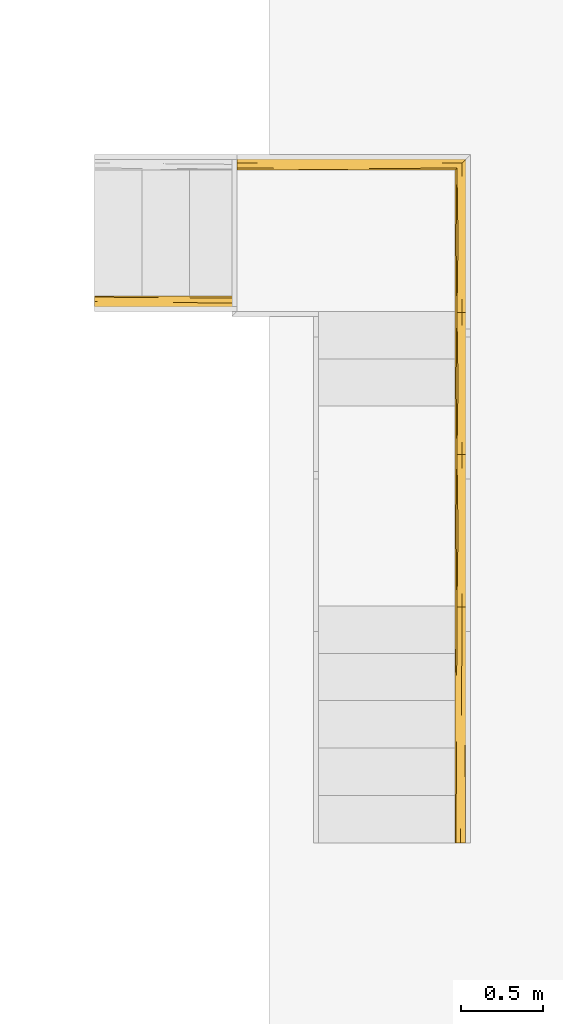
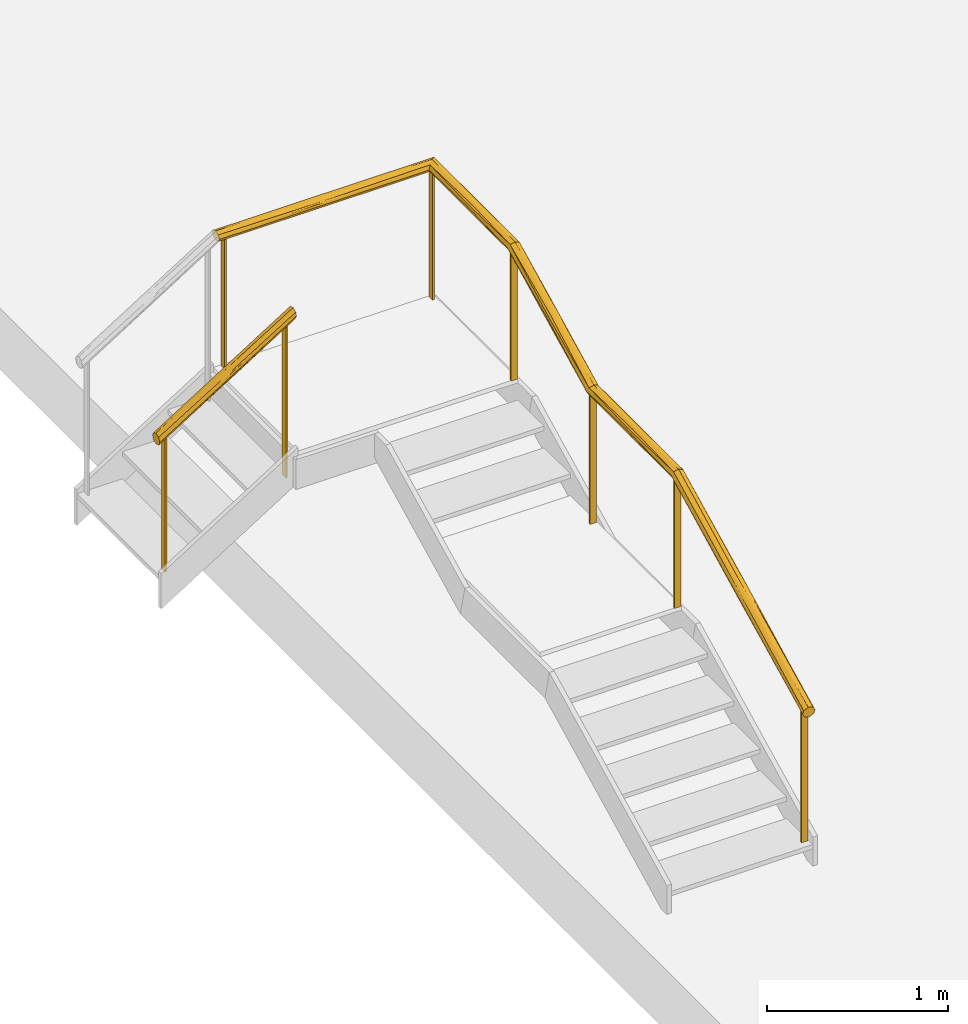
# One storey, part 9 of 15: 2 railings, 2 elements without a shape of their own.
"""IFC2X3 building model written with IfcOpenShell, lengths in centimetres."""

from ifc_helpers import new_model, entity, si_unit, converted_unit, derived_unit, direction, frame, origin, place, context, subcontext, project, spatial, faceted_brep, material, material_list, element, aggregate, save


model = new_model("IFC2X3")

# Units and contexts
model_context = context("Model", 3, precision=0.001, world=origin(), true_north=direction((6.12303176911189e-17, 1.0)))
body_context = subcontext(model_context, "Body", "Model", "MODEL_VIEW")
ifc_project = project(units=[si_unit("LENGTHUNIT", "METRE", prefix="CENTI"), si_unit("AREAUNIT", "SQUARE_METRE"), si_unit("VOLUMEUNIT", "CUBIC_METRE"), converted_unit("PLANEANGLEUNIT", "DEGREE", entity("IfcRatioMeasure", 0.0174532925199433), si_unit("PLANEANGLEUNIT", "RADIAN"), dimensions=[0, 0, 0, 0, 0, 0, 0]), si_unit("MASSUNIT", "GRAM", prefix="KILO"), si_unit("TIMEUNIT", "SECOND"), si_unit("FREQUENCYUNIT", "HERTZ"), si_unit("THERMODYNAMICTEMPERATUREUNIT", "DEGREE_CELSIUS"), derived_unit("THERMALTRANSMITTANCEUNIT", [(si_unit("MASSUNIT", "GRAM", prefix="KILO"), 1), (si_unit("THERMODYNAMICTEMPERATUREUNIT", "KELVIN"), -1), (si_unit("TIMEUNIT", "SECOND"), -3)]), derived_unit("VOLUMETRICFLOWRATEUNIT", [(si_unit("LENGTHUNIT", "METRE"), 3), (si_unit("TIMEUNIT", "SECOND"), -1)]), si_unit("ELECTRICCURRENTUNIT", "AMPERE"), si_unit("ELECTRICVOLTAGEUNIT", "VOLT"), si_unit("POWERUNIT", "WATT"), si_unit("FORCEUNIT", "NEWTON", prefix="KILO"), si_unit("ILLUMINANCEUNIT", "LUX"), si_unit("LUMINOUSFLUXUNIT", "LUMEN"), si_unit("LUMINOUSINTENSITYUNIT", "CANDELA"), derived_unit("USERDEFINED", [(si_unit("MASSUNIT", "GRAM", prefix="KILO"), -1), (si_unit("LENGTHUNIT", "METRE"), -2), (si_unit("TIMEUNIT", "SECOND"), 3), (si_unit("LUMINOUSFLUXUNIT", "LUMEN"), 1)]), derived_unit("LINEARVELOCITYUNIT", [(si_unit("LENGTHUNIT", "METRE"), 1), (si_unit("TIMEUNIT", "SECOND"), -1)]), si_unit("PRESSUREUNIT", "PASCAL"), derived_unit("USERDEFINED", [(si_unit("LENGTHUNIT", "METRE"), -2), (si_unit("MASSUNIT", "GRAM", prefix="KILO"), 1), (si_unit("TIMEUNIT", "SECOND"), -2)])], contexts=[model_context])

# Site, building, storey
site_placement = place(None, frame((8.62739174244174, -249.285249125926, 0.0)))
site = spatial("IfcSite", under=ifc_project, at=site_placement, Name="Default", CompositionType="ELEMENT")
building_placement = place(site_placement, origin())
building = spatial("IfcBuilding", under=site, at=building_placement, CompositionType="ELEMENT")
storey_placement = place(building_placement, frame((0.0, 0.0, 801.0)))
storey = spatial("IfcBuildingStorey", under=building, at=storey_placement, Name="Acrotère E3", CompositionType="ELEMENT", Elevation=801.0)

# Stair, railing
stair_1_placement = place(storey_placement, origin())
stair_1 = element("IfcStair", 1, at=stair_1_placement, inside=storey, Name="Escalier assemblé:Escalier", ShapeType="NOTDEFINED")
ifc_material_1 = material(Name="Peinture - Grise")
ifc_material_2 = material(Name="Pin (1)")
ifc_material_list_1 = material_list([ifc_material_1, ifc_material_2])
railing_1_placement = place(stair_1_placement, frame((2946.90482781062, 4178.85578472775, -0.666666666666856)))
railing_1 = element("IfcRailing", 2, at=railing_1_placement, material=ifc_material_list_1, Name="Garde-corps:Type Bateau", ObjectType="Garde-corps:Type Bateau", PredefinedType="NOTDEFINED", context=body_context, shape_type="Brep", body=[
    faceted_brep([(82.6000000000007, 6.15952722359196, 137.963695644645), (81.4000000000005, 6.15952722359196, 137.963695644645), (81.4000000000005, 2.159527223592, 137.963695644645), (82.6000000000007, 2.159527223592, 137.963695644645), (82.6000000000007, 6.15952722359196, 36.4444444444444), (82.6000000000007, 2.159527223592, 36.4444444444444), (81.4000000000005, 2.159527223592, 36.4444444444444), (81.4000000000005, 6.15952722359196, 36.4444444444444)], [[[0, 1, 2, 3]], [[4, 5, 6, 7]], [[1, 0, 4, 7]], [[2, 1, 7, 6]], [[3, 2, 6, 5]], [[0, 3, 5, 4]]]),
    faceted_brep([(5.60000000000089, 6.15952722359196, 89.5805538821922), (4.40000000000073, 6.15952722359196, 89.5805538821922), (4.40000000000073, 2.159527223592, 89.5805538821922), (5.60000000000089, 2.159527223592, 89.5805538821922), (5.60000000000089, 6.15952722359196, 0.0), (5.60000000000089, 2.159527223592, 0.0), (4.40000000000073, 2.159527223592, 0.0), (4.40000000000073, 6.15952722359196, 0.0)], [[[0, 1, 2, 3]], [[4, 5, 6, 7]], [[1, 0, 4, 7]], [[2, 1, 7, 6]], [[3, 2, 6, 5]], [[0, 3, 5, 4]]]),
    faceted_brep([(0.0, 1.48300479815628, 92.633024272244), (0.0, 3.03032293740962, 93.0783492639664), (0.0, 4.5776410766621, 93.5236742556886), (0.0, 5.98661813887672, 92.8031232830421), (0.0, 7.39559520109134, 92.0825723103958), (0.0, 7.77756121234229, 91.0412861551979), (0.0, 8.1595272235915, 90.0), (0.0, 7.49778843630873, 88.683487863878), (0.0, 6.83604964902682, 87.3669757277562), (0.0, 5.28873150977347, 86.9216507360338), (0.0, 4.5150724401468, 86.6989882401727), (0.0, 3.741413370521, 86.4763257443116), (0.0, 2.33243630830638, 87.1968767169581), (0.0, 0.923459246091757, 87.9174276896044), (0.0, 0.541493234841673, 88.9587138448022), (0.0, 0.15952722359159, 90.0), (0.0, 0.821266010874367, 91.316512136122), (87.0, 0.821266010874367, 143.350154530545), (87.0, 1.48300479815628, 142.033642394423), (87.0, 3.03032293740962, 141.588317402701), (87.0, 4.5776410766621, 141.142992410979), (87.0, 5.98661813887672, 141.863543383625), (87.0, 7.39559520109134, 142.584094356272), (87.0, 7.77756121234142, 143.625380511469), (87.0, 8.1595272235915, 144.666666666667), (87.0, 7.49778843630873, 145.983178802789), (87.0, 6.83604964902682, 147.299690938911), (87.0, 5.28873150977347, 147.745015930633), (87.0, 3.741413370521, 148.190340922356), (87.0, 2.33243630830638, 147.469789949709), (87.0, 0.923459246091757, 146.749238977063), (87.0, 0.541493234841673, 145.707952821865), (87.0, 0.15952722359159, 144.666666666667), (36.8666003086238, 8.02411869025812, 112.25114367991), (46.6073203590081, 0.7842993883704, 117.384441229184), (45.3720805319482, 3.42748462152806, 115.026415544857), (38.2869607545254, 6.05579838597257, 110.938063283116), (43.5242527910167, 4.98840300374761, 113.882393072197), (46.5504868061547, 2.3819247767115, 116.076120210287), (36.1371269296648, 1.48583532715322, 110.071574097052), (45.8486968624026, 0.336276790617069, 117.767559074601), (26.1494504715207, 8.1595272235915, 106.431072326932), (60.8505463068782, 8.1595272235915, 128.235592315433), (43.3404633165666, 7.61809586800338, 115.453084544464), (48.2161761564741, 6.94974299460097, 117.758020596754), (60.8505463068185, 0.15952722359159, 128.235592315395), (26.1494504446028, 0.15952722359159, 106.431072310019), (46.3428116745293, 0.560433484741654, 120.665671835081), (42.8649360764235, 1.1628965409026, 119.28119858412), (39.493795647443, 1.99016423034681, 117.79277712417), (49.7508696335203, 2.98258791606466, 124.6473253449), (42.7976339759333, 4.12025700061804, 120.434912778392), (39.7696267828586, 8.06398392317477, 115.759107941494), (39.6862148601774, 7.72721402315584, 116.539078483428), (39.5561967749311, 5.20472994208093, 118.275222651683), (42.7017685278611, 7.10232025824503, 119.231526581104), (49.6878665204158, 6.21182380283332, 124.262680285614)], [[[0, 1, 2, 3, 4, 5, 6, 7, 8, 9, 10, 11, 12, 13, 14, 15, 16]], [[17, 18, 19, 20, 21, 22, 23, 24, 25, 26, 27, 28, 29, 30, 31, 32]], [[7, 6, 33]], [[14, 13, 34]], [[11, 35, 12]], [[9, 36, 37]], [[37, 36, 21]], [[12, 38, 39]], [[13, 39, 34]], [[17, 34, 18]], [[35, 38, 12]], [[10, 9, 37]], [[14, 34, 40]], [[33, 6, 41, 42, 24]], [[8, 43, 44]], [[39, 13, 12]], [[36, 8, 44]], [[17, 40, 34]], [[19, 18, 38]], [[18, 34, 39]], [[40, 17, 32]], [[40, 32, 45, 46, 15]], [[14, 40, 15]], [[39, 38, 18]], [[35, 19, 38]], [[35, 20, 19]], [[11, 10, 35]], [[20, 35, 37]], [[10, 37, 35]], [[20, 37, 21]], [[22, 21, 44]], [[36, 9, 8]], [[36, 44, 21]], [[22, 44, 43]], [[33, 23, 43]], [[7, 43, 8]], [[23, 22, 43]], [[43, 7, 33]], [[23, 33, 24]], [[30, 47, 31]], [[48, 49, 0]], [[49, 50, 1]], [[1, 50, 51]], [[52, 53, 25]], [[2, 51, 54]], [[55, 26, 25]], [[55, 53, 4]], [[52, 25, 24]], [[16, 15, 46]], [[55, 25, 53]], [[5, 4, 53]], [[5, 53, 52]], [[56, 55, 3]], [[56, 3, 54]], [[48, 29, 49]], [[26, 55, 56]], [[52, 24, 42, 41, 6]], [[54, 51, 27]], [[55, 4, 3]], [[56, 27, 26]], [[27, 56, 54]], [[28, 27, 51]], [[2, 54, 3]], [[28, 51, 50]], [[51, 2, 1]], [[50, 29, 28]], [[29, 50, 49]], [[30, 29, 48]], [[0, 49, 1]], [[31, 46, 45, 32]], [[48, 0, 16]], [[16, 47, 48]], [[5, 52, 6]], [[47, 16, 46]], [[48, 47, 30]], [[31, 47, 46]]]),
])
aggregate(stair_1, [railing_1])

stair_2_placement = place(building_placement, frame((0.0, 0.0, 801.0)))
stair_2 = element("IfcStair", 3, at=stair_2_placement, inside=storey, Name="Escalier assemblé:Escalier", ShapeType="NOTDEFINED")
ifc_material_list_2 = material_list([ifc_material_1, ifc_material_2])
railing_2_placement = place(stair_2_placement, frame((3033.90482780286, 3852.18519336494, -62.4444444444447)))
railing_2 = element("IfcRailing", 4, at=railing_2_placement, material=ifc_material_list_2, Name="Garde-corps:Type Bateau", ObjectType="Garde-corps:Type Bateau", PredefinedType="NOTDEFINED", context=body_context, shape_type="Brep", body=[
    faceted_brep([(135.460000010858, 144.399999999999, 159.403930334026), (139.460000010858, 144.399999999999, 159.403930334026), (139.460000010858, 145.599999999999, 159.403930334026), (135.460000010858, 145.599999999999, 159.403930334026), (135.460000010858, 144.399999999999, 72.7777777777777), (135.460000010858, 145.599999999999, 72.7777777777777), (139.460000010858, 145.599999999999, 72.7777777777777), (139.460000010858, 144.399999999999, 72.7777777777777)], [[[0, 1, 2, 3]], [[4, 5, 6, 7]], [[3, 5, 4, 0]], [[2, 6, 5, 3]], [[1, 7, 6, 2]], [[0, 4, 7, 1]]]),
    faceted_brep([(135.460000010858, 237.690118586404, 159.403930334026), (139.460000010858, 237.690118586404, 159.403930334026), (139.460000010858, 238.890118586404, 159.403930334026), (135.460000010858, 238.890118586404, 159.403930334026), (135.460000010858, 237.690118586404, 72.7777777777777), (135.460000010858, 238.890118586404, 72.7777777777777), (139.460000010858, 238.890118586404, 72.7777777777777), (139.460000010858, 237.690118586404, 72.7777777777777)], [[[0, 1, 2, 3]], [[4, 5, 6, 7]], [[3, 5, 4, 0]], [[2, 6, 5, 3]], [[1, 7, 6, 2]], [[0, 4, 7, 1]]]),
    faceted_brep([(135.460000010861, 324.690118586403, 203.429097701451), (139.460000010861, 324.690118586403, 203.429097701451), (139.460000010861, 325.890118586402, 203.429097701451), (135.460000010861, 325.890118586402, 203.429097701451), (135.460000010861, 324.690118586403, 116.444444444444), (135.460000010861, 325.890118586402, 116.444444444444), (139.460000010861, 325.890118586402, 116.444444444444), (139.460000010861, 324.690118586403, 116.444444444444)], [[[0, 1, 2, 3]], [[4, 5, 6, 7]], [[3, 5, 4, 0]], [[2, 6, 5, 3]], [[1, 7, 6, 2]], [[0, 4, 7, 1]]]),
    faceted_brep([(138.060000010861, 413.750118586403, 203.429097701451), (138.060000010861, 417.750118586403, 203.429097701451), (136.860000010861, 417.750118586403, 203.429097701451), (136.860000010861, 413.750118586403, 203.429097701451), (138.060000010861, 413.750118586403, 116.444444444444), (136.860000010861, 413.750118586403, 116.444444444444), (136.860000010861, 417.750118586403, 116.444444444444), (138.060000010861, 417.750118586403, 116.444444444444)], [[[0, 1, 2, 3]], [[4, 5, 6, 7]], [[3, 5, 4, 0]], [[2, 6, 5, 3]], [[1, 7, 6, 2]], [[0, 4, 7, 1]]]),
    faceted_brep([(135.460000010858, 4.39999999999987, 89.1357311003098), (139.460000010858, 4.39999999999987, 89.1357311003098), (139.460000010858, 5.60000000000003, 89.1357311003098), (135.460000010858, 5.60000000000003, 89.1357311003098), (135.460000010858, 4.39999999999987, 0.0), (135.460000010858, 5.60000000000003, 0.0), (139.460000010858, 5.60000000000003, 0.0), (139.460000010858, 4.39999999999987, 0.0)], [[[0, 1, 2, 3]], [[4, 5, 6, 7]], [[3, 5, 4, 0]], [[2, 6, 5, 3]], [[1, 7, 6, 2]], [[0, 4, 7, 1]]]),
    faceted_brep([(5.60000000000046, 413.750118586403, 203.429097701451), (5.60000000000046, 417.750118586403, 203.429097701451), (4.4000000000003, 417.750118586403, 203.429097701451), (4.4000000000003, 413.750118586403, 203.429097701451), (5.60000000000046, 413.750118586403, 116.444444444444), (4.4000000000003, 413.750118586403, 116.444444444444), (4.4000000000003, 417.750118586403, 116.444444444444), (5.60000000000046, 417.750118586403, 116.444444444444)], [[[0, 1, 2, 3]], [[4, 5, 6, 7]], [[3, 5, 4, 0]], [[2, 6, 5, 3]], [[1, 7, 6, 2]], [[0, 4, 7, 1]]]),
    faceted_brep([(0.0, 419.088379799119, 205.329727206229), (0.0, 418.426641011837, 204.215009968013), (0.0, 416.879322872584, 203.837944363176), (0.0, 415.332004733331, 203.46087875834), (0.0, 413.923027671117, 204.070983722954), (0.0, 412.514050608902, 204.681088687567), (0.0, 412.114163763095, 205.604132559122), (0.0, 411.750118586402, 206.444444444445), (0.0, 412.237108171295, 207.264791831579), (0.0, 412.655352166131, 207.969335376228), (0.0, 413.073596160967, 208.673878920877), (0.0, 414.62091430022, 209.050944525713), (0.0, 416.168232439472, 209.42801013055), (0.0, 417.577209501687, 208.817905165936), (0.0, 418.986186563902, 208.207800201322), (0.0, 419.368152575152, 207.326122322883), (0.0, 419.750118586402, 206.444444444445), (137.041886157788, 415.332004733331, 203.46087875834), (135.632909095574, 413.923027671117, 204.070983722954), (68.5209428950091, 414.525653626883, 203.588462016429), (67.8164544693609, 413.576552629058, 203.926006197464), (67.1119661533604, 412.805040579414, 204.414379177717), (134.223932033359, 412.514050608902, 204.681088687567), (133.841966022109, 412.132084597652, 205.562766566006), (67.111965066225, 412.188069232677, 205.079567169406), (72.4657254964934, 411.860348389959, 205.745016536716), (133.460000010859, 411.750118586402, 206.444444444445), (84.3241081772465, 411.750118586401, 206.444444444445), (81.9050178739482, 411.750118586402, 206.444444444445), (70.0682611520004, 417.76195693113, 203.851514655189), (68.5209431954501, 416.168232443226, 203.460878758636), (70.0682612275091, 418.589466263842, 204.331346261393), (75.151701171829, 419.381608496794, 205.186705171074), (140.56175576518, 418.851874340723, 204.931327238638), (57.1358878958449, 419.750118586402, 206.444444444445), (59.5549857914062, 419.750118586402, 206.444444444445), (141.460000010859, 419.750118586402, 206.444444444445), (140.986989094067, 419.277107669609, 205.647644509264), (138.589204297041, 416.879322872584, 203.837944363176), (140.136522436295, 418.426641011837, 204.215009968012), (140.889862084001, 419.179980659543, 205.484031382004), (140.513192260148, 418.80331083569, 204.849520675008), (70.3480330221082, 419.314144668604, 207.806415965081), (140.696067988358, 418.986186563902, 208.207800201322), (141.004776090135, 419.294894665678, 207.495220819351), (141.078033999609, 419.368152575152, 207.326122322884), (78.6795816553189, 419.644763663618, 207.128442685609), (69.6435457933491, 416.99796987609, 209.294727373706), (70.3480341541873, 418.648638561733, 208.511858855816), (136.330795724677, 414.62091430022, 209.050944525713), (137.878113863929, 416.168232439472, 209.42801013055), (68.9390570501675, 415.345393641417, 209.429048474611), (67.3917388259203, 412.704668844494, 208.389423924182), (67.3917387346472, 413.591695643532, 208.970197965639), (62.3048909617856, 412.132197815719, 207.723991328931), (139.287090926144, 417.577209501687, 208.817905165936), (134.121738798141, 412.411857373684, 207.559161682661), (134.783477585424, 413.073596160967, 208.673878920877), (66.6385448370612, 417.888205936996, 208.979908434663), (72.3692414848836, 414.431841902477, 209.276838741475), (133.898837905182, 369.11093402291, 205.078265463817), (134.22393203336, 325.707816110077, 204.681088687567), (133.908536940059, 325.535366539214, 205.40910340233), (133.84196602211, 325.49896734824, 205.562766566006), (134.484934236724, 369.110933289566, 204.439125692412), (133.566776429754, 370.699488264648, 205.755909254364), (136.222202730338, 369.887681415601, 203.591696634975), (135.632909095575, 325.852335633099, 204.070983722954), (137.041886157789, 325.996855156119, 203.46087875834), (141.314491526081, 369.901287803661, 205.642647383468), (140.476853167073, 372.122430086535, 204.474555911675), (141.46000001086, 325.290118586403, 206.444444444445), (140.877197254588, 325.522671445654, 205.462697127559), (140.798261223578, 325.554168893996, 205.329727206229), (137.897801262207, 371.393430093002, 203.462467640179), (138.589204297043, 325.907537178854, 203.837944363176), (139.477436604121, 372.122430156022, 203.853962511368), (140.136522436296, 325.81821920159, 204.215009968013), (141.46000001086, 353.826271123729, 206.444444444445), (141.46000001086, 359.74326813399, 206.444444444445), (133.46000001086, 325.290118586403, 206.444444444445), (133.46000001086, 358.252044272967, 206.444444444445), (133.46000001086, 359.743266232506, 206.444444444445), (140.506859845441, 325.670445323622, 204.838853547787), (135.238059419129, 369.88768172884, 203.949865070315), (138.694296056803, 370.375807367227, 209.298045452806), (140.194434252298, 371.929303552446, 208.633990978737), (134.051500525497, 325.054095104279, 207.440843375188), (133.600085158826, 370.994779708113, 207.231429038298), (140.69606798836, 324.87242106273, 208.207800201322), (140.970961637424, 371.929304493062, 207.881853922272), (141.344365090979, 378.056695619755, 207.160569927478), (137.061423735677, 370.375807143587, 209.429513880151), (135.460964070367, 368.917807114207, 209.042937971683), (136.330795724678, 324.672699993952, 209.050944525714), (141.07803399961, 325.081269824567, 207.326122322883), (134.228744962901, 368.917807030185, 208.212757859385), (137.878113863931, 324.583382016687, 209.42801013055), (139.287090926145, 324.727901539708, 208.817905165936), (134.783477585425, 324.762017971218, 208.673878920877), (134.121738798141, 325.026068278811, 207.559161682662), (133.945294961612, 282.059290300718, 183.143674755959), (134.717318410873, 282.396391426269, 182.472043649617), (141.312553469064, 279.926362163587, 182.772694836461), (134.223932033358, 238.707816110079, 161.014422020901), (133.574121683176, 287.13636810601, 186.498394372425), (133.460000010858, 269.548788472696, 178.466995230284), (141.460000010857, 294.031450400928, 190.755227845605), (141.460000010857, 269.548788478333, 178.466995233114), (141.460000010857, 238.290118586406, 162.777777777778), (136.225706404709, 282.438555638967, 181.743699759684), (133.841966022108, 238.498967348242, 161.89609989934), (133.460000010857, 238.290118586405, 162.777777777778), (138.58920429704, 238.907537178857, 160.17127769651), (139.459000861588, 282.403952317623, 182.01175321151), (140.136522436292, 238.818219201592, 160.548343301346), (135.632909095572, 238.8523356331, 160.404317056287), (137.876966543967, 282.496895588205, 181.627464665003), (140.798261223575, 238.554168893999, 161.663060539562), (140.755568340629, 285.771206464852, 184.706896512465), (137.041886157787, 238.996855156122, 159.794212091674), (141.022393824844, 281.551399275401, 186.017878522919), (140.696067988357, 237.872421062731, 164.541133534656), (141.001966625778, 238.039678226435, 163.83503913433), (141.078033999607, 238.081269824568, 163.659455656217), (140.356109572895, 281.23517349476, 186.647914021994), (141.358004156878, 286.043083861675, 187.498922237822), (138.697842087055, 281.012906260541, 187.412920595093), (133.607446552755, 283.653874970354, 186.449527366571), (134.225934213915, 281.470166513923, 186.425837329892), (134.04280276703, 238.057565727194, 163.759525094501), (139.287090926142, 237.72790153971, 165.151238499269), (137.878113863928, 237.583382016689, 165.761343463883), (134.783477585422, 237.762017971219, 165.00721225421), (136.330795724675, 237.672699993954, 165.384277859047), (135.459001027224, 281.09684579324, 187.169629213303), (137.043033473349, 281.083341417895, 187.594757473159), (139.592003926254, 283.17149637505, 188.144579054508), (134.413140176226, 237.909791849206, 164.383368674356), (134.055141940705, 238.052642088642, 163.780310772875), (133.897675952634, 192.062757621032, 161.413303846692), (134.223932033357, 145.417697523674, 161.014422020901), (133.841966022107, 145.208848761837, 161.896099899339), (134.563719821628, 192.062756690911, 160.708598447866), (133.562690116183, 196.607156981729, 162.102371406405), (136.222082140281, 192.207276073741, 159.925059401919), (141.310344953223, 193.737648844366, 161.964851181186), (140.693980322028, 192.17315986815, 161.012268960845), (140.86485808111, 145.237476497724, 161.77524478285), (135.632909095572, 145.562217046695, 160.404317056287), (137.041886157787, 145.706736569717, 159.794212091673), (140.136522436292, 145.528100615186, 160.548343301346), (138.58920429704, 145.617418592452, 160.171277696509), (139.461041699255, 192.173159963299, 160.180152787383), (141.460000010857, 145.0, 162.777777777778), (141.460000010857, 179.239132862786, 162.777777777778), (137.876917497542, 192.351795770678, 159.794117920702), (133.460000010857, 179.239134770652, 162.777777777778), (133.460000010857, 204.050985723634, 162.777777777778), (133.460000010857, 145.0, 162.777777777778), (135.327855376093, 194.354716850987, 160.239500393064), (140.798261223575, 145.264050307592, 161.663060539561), (140.967294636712, 191.22736244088, 164.220214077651), (140.174997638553, 191.227361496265, 164.980887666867), (133.60965506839, 189.552469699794, 163.5907043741), (140.696067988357, 144.582302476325, 164.541133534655), (141.343360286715, 197.266644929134, 163.496962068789), (138.694217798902, 190.938322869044, 165.631397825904), (141.078033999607, 144.791151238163, 163.659455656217), (136.330795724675, 144.382581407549, 165.384277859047), (135.461041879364, 191.027640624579, 165.376304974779), (134.783477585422, 144.471899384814, 165.00721225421), (139.287090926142, 144.437782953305, 165.151238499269), (137.043082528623, 190.938322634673, 165.761437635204), (134.12173879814, 144.735949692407, 163.892495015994), (134.173208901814, 194.508089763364, 164.487548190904), (137.878113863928, 144.293263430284, 165.761343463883), (133.912751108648, 144.819341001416, 163.540449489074), (137.041886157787, 0.0, 93.3382878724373), (135.632909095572, 0.0, 92.6556462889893), (134.223932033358, 0.0, 91.9730047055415), (133.841966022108, 0.0, 90.9865023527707), (133.460000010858, 0.0, 90.0), (134.12173879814, 0.0, 88.7527517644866), (134.783477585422, 0.0, 87.5055035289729), (136.330795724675, 0.0, 87.083607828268), (137.104454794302, 0.0, 86.8726599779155), (137.878113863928, 0.0, 86.6617121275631), (139.287090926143, 0.0, 87.344353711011), (140.696067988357, 0.0, 88.026995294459), (141.078033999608, 0.0, 89.0134976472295), (141.460000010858, 0.0, 90.0), (140.798261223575, 0.0, 91.2472482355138), (140.136522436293, 0.0, 92.4944964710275), (138.58920429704, 0.0, 92.9163921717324), (133.732049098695, 72.8994996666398, 125.372643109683), (135.950669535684, 76.5910401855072, 125.333703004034), (134.985819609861, 77.2526442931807, 126.136809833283), (134.226057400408, 60.6479206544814, 118.46468687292), (133.460000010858, 64.2904624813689, 122.268393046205), (139.615085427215, 79.7017189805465, 127.175706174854), (138.603036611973, 63.5990816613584, 118.704670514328), (137.461469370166, 72.903026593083, 123.234498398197), (140.453585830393, 73.6709467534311, 124.75028451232), (141.06106408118, 67.9230066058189, 122.63032793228), (141.460000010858, 80.7095340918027, 130.509383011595), (133.460000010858, 80.7095340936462, 130.50938301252), (141.460000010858, 64.2904624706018, 122.2683930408), (141.08788791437, 76.1935664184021, 129.656549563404), (140.506610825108, 69.0814872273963, 126.848160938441), (139.676637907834, 67.4220698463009, 126.63432847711), (138.69519161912, 85.0388166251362, 135.874945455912), (137.548535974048, 69.5913943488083, 128.284867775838), (133.894065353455, 66.2616694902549, 124.77852444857), (133.566526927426, 63.2706312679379, 122.526031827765), (136.449161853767, 66.8401118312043, 126.795827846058), (134.52656933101, 70.5507060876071, 127.692520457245), (135.436276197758, 83.363661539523, 134.736912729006)], [[[0, 1, 2, 3, 4, 5, 6, 7, 8, 9, 10, 11, 12, 13, 14, 15, 16]], [[17, 18, 19]], [[4, 20, 21]], [[22, 23, 24]], [[25, 26, 27, 28, 7]], [[24, 23, 25]], [[29, 30, 2]], [[21, 24, 5]], [[20, 4, 19]], [[31, 32, 33]], [[30, 19, 3]], [[29, 1, 31]], [[0, 16, 34, 35]], [[35, 36, 37]], [[0, 35, 32]], [[2, 30, 3]], [[26, 25, 23]], [[38, 29, 39]], [[22, 24, 21]], [[5, 24, 6]], [[22, 21, 18]], [[21, 5, 4]], [[25, 6, 24]], [[6, 25, 7]], [[17, 19, 30]], [[3, 19, 4]], [[39, 29, 31]], [[1, 29, 2]], [[32, 37, 40, 33]], [[31, 1, 0]], [[31, 33, 41, 39]], [[37, 32, 35]], [[0, 32, 31]], [[30, 38, 17]], [[38, 30, 29]], [[20, 18, 21]], [[18, 20, 19]], [[42, 43, 44, 45]], [[34, 16, 15]], [[42, 45, 46]], [[12, 47, 13]], [[13, 48, 14]], [[49, 50, 51]], [[10, 52, 53]], [[15, 46, 34]], [[15, 14, 42]], [[54, 8, 27]], [[12, 11, 51]], [[52, 10, 9]], [[55, 47, 50]], [[14, 48, 42]], [[26, 56, 27]], [[8, 7, 28, 27]], [[57, 53, 52]], [[57, 49, 53]], [[43, 42, 48]], [[45, 36, 46]], [[48, 55, 43]], [[58, 47, 55]], [[42, 46, 15]], [[46, 36, 35, 34]], [[9, 8, 54]], [[52, 56, 57]], [[56, 52, 54]], [[53, 11, 10]], [[59, 51, 11]], [[9, 54, 52]], [[56, 54, 27]], [[59, 49, 51]], [[12, 51, 47]], [[51, 50, 47]], [[13, 47, 58]], [[59, 53, 49]], [[53, 59, 11]], [[58, 48, 13]], [[48, 58, 55]], [[60, 61, 62, 63]], [[22, 64, 60]], [[65, 60, 63]], [[17, 66, 18]], [[18, 64, 22]], [[67, 66, 68]], [[69, 70, 41]], [[60, 65, 23]], [[69, 71, 72, 73]], [[38, 74, 17]], [[75, 76, 77]], [[23, 22, 60]], [[78, 71, 69, 36, 79]], [[68, 74, 75]], [[69, 41, 33, 40, 37, 36]], [[38, 39, 76]], [[65, 80, 81, 82, 26]], [[70, 73, 83, 77]], [[61, 60, 64]], [[64, 67, 61]], [[67, 64, 84]], [[63, 80, 65]], [[23, 65, 26]], [[74, 68, 66]], [[18, 66, 84]], [[74, 38, 76]], [[70, 39, 41]], [[66, 17, 74]], [[75, 74, 76]], [[70, 77, 76]], [[39, 70, 76]], [[69, 73, 70]], [[67, 84, 66]], [[84, 64, 18]], [[85, 86, 55]], [[87, 88, 80]], [[86, 89, 90]], [[36, 91, 79]], [[90, 91, 44]], [[92, 93, 94]], [[90, 43, 86]], [[95, 71, 78, 79]], [[57, 56, 96]], [[85, 97, 98]], [[56, 26, 88]], [[93, 99, 94]], [[88, 26, 82, 81, 80]], [[88, 87, 96]], [[86, 85, 98]], [[93, 96, 99]], [[44, 43, 90]], [[49, 92, 50]], [[90, 89, 95]], [[89, 86, 98]], [[86, 43, 55]], [[91, 90, 95]], [[91, 36, 45, 44]], [[79, 91, 95]], [[57, 96, 93]], [[96, 87, 100, 99]], [[50, 92, 85]], [[97, 92, 94]], [[93, 49, 57]], [[49, 93, 92]], [[97, 85, 92]], [[50, 85, 55]], [[56, 88, 96]], [[101, 61, 102]], [[103, 72, 71]], [[102, 104, 101]], [[80, 105, 106]], [[101, 105, 62]], [[103, 71, 107, 108, 109]], [[110, 102, 67]], [[106, 111, 112]], [[62, 61, 101]], [[113, 114, 115]], [[116, 102, 110]], [[117, 68, 75]], [[118, 115, 119]], [[120, 116, 110]], [[113, 120, 117]], [[114, 75, 77]], [[119, 77, 83, 73, 72]], [[101, 104, 111]], [[104, 102, 116]], [[102, 61, 67]], [[105, 101, 111]], [[105, 80, 63, 62]], [[106, 105, 111]], [[120, 110, 117]], [[68, 110, 67]], [[114, 77, 119]], [[118, 119, 103]], [[114, 113, 117]], [[68, 117, 110]], [[119, 115, 114]], [[75, 114, 117]], [[72, 103, 119]], [[118, 103, 109]], [[121, 122, 123, 124]], [[89, 125, 121]], [[126, 121, 124]], [[97, 127, 98]], [[98, 125, 89]], [[128, 100, 87, 80]], [[129, 128, 130]], [[121, 126, 95]], [[99, 100, 129]], [[131, 127, 132]], [[133, 134, 135]], [[128, 112, 130]], [[128, 80, 106, 112]], [[136, 97, 94]], [[95, 89, 121]], [[136, 135, 134]], [[126, 108, 107, 71]], [[135, 136, 94]], [[122, 121, 125]], [[109, 108, 124]], [[125, 131, 122]], [[137, 127, 131]], [[95, 126, 71]], [[108, 126, 124]], [[136, 132, 127]], [[98, 127, 137]], [[99, 129, 135]], [[138, 133, 129, 130, 139]], [[97, 136, 127]], [[132, 136, 134]], [[133, 135, 129]], [[99, 135, 94]], [[100, 128, 129]], [[137, 125, 98]], [[125, 137, 131]], [[140, 141, 142]], [[104, 143, 140]], [[144, 140, 142]], [[120, 145, 116]], [[116, 143, 104]], [[109, 146, 118]], [[147, 146, 148]], [[140, 144, 111]], [[115, 118, 147]], [[149, 145, 150]], [[151, 152, 153]], [[146, 154, 148]], [[146, 109, 155, 154]], [[156, 120, 113]], [[111, 104, 140]], [[156, 153, 152]], [[144, 157, 158, 112]], [[153, 156, 113]], [[141, 140, 143]], [[159, 157, 142]], [[143, 149, 141]], [[160, 145, 149]], [[111, 144, 112]], [[157, 144, 142]], [[156, 150, 145]], [[116, 145, 160]], [[115, 147, 153]], [[147, 148, 161, 151]], [[120, 156, 145]], [[150, 156, 152]], [[151, 153, 147]], [[115, 153, 113]], [[118, 146, 147]], [[160, 143, 116]], [[143, 160, 149]], [[162, 122, 163]], [[164, 139, 130, 112]], [[163, 165, 162]], [[109, 166, 155]], [[162, 166, 123]], [[164, 112, 158, 157, 159]], [[167, 163, 131]], [[155, 168, 154]], [[123, 122, 162]], [[169, 170, 171]], [[172, 163, 167]], [[173, 132, 134]], [[174, 171, 175]], [[176, 172, 167]], [[169, 176, 173]], [[170, 134, 133]], [[175, 133, 138, 139]], [[162, 165, 168]], [[165, 163, 172]], [[163, 122, 131]], [[166, 162, 168]], [[166, 109, 124, 123]], [[155, 166, 168]], [[176, 167, 173]], [[132, 167, 131]], [[170, 133, 175]], [[174, 175, 164]], [[170, 169, 173]], [[132, 173, 167]], [[175, 171, 170]], [[134, 170, 173]], [[139, 164, 175]], [[164, 159, 177, 174]], [[178, 179, 180, 181, 182, 183, 184, 185, 186, 187, 188, 189, 190, 191, 192, 193, 194]], [[195, 183, 182]], [[185, 184, 196, 186]], [[141, 197, 198]], [[197, 196, 184]], [[149, 196, 197]], [[199, 195, 182]], [[200, 201, 152]], [[198, 183, 195]], [[152, 201, 202]], [[203, 200, 151]], [[189, 204, 190]], [[184, 198, 197]], [[203, 188, 200]], [[198, 184, 183]], [[187, 202, 201]], [[205, 161, 148, 154]], [[195, 142, 141]], [[187, 186, 202]], [[142, 199, 206, 159]], [[149, 197, 141]], [[196, 149, 150]], [[196, 150, 202]], [[196, 202, 186]], [[202, 150, 152]], [[201, 188, 187]], [[188, 201, 200]], [[189, 188, 203]], [[151, 200, 152]], [[190, 205, 207, 191]], [[203, 151, 161]], [[161, 204, 203]], [[198, 195, 141]], [[204, 161, 205]], [[142, 195, 199]], [[203, 204, 189]], [[190, 204, 205]], [[165, 208, 168]], [[209, 210, 193]], [[210, 211, 194]], [[212, 211, 176]], [[213, 177, 214]], [[178, 212, 215]], [[216, 171, 174]], [[216, 213, 180]], [[177, 213, 174]], [[192, 191, 207]], [[216, 174, 213]], [[181, 180, 213]], [[177, 159, 206]], [[217, 216, 179]], [[217, 179, 215]], [[209, 172, 210]], [[171, 216, 217]], [[214, 206, 199, 182]], [[215, 212, 169]], [[216, 180, 179]], [[217, 169, 171]], [[169, 217, 215]], [[176, 169, 212]], [[178, 215, 179]], [[172, 176, 211]], [[212, 178, 194]], [[172, 211, 210]], [[211, 212, 194]], [[165, 172, 209]], [[193, 210, 194]], [[168, 207, 205, 154]], [[209, 193, 192]], [[192, 208, 209]], [[181, 213, 214]], [[208, 192, 207]], [[181, 214, 182]], [[206, 214, 177]], [[209, 208, 165]], [[168, 208, 207]]]),
])
aggregate(stair_2, [railing_2])

save(model, "model.ifc")
